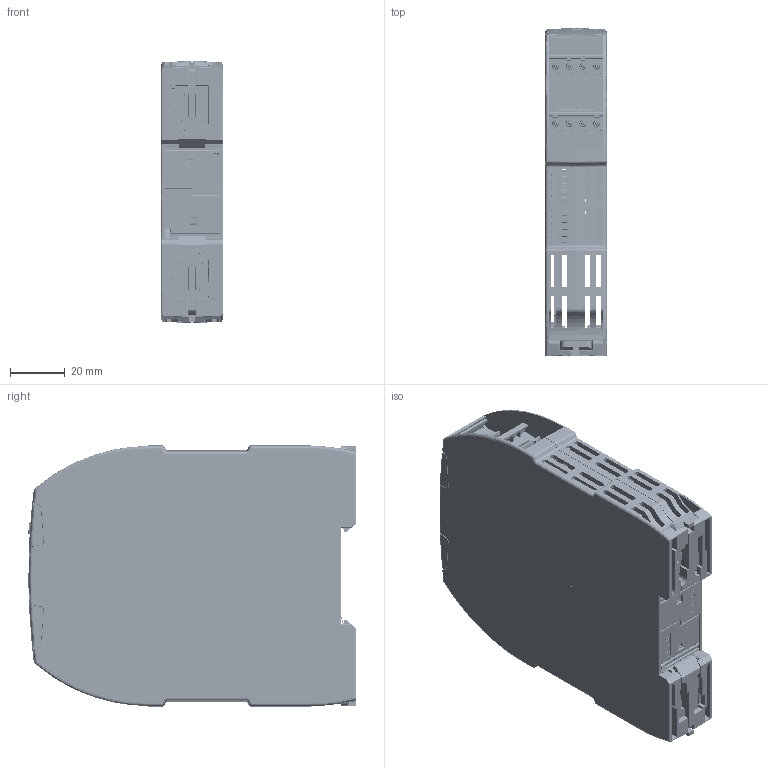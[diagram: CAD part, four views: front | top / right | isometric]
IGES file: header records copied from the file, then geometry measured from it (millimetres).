
Start section:  PTC IGES file: 2037947
Global section: file name: 2037947; native system: Creo Parametric by PTC Inc.; preprocessor: 2019292; author: s.mayer; organization: Unknown; date: 20250710.102411; units: millimetre
Bounding box: 22.5 x 120.34 x 96 mm (x, y, z)
Surface area: 103936.6 mm2 (no closed solid volume)
Topology: 0 solids, 0 shells, 13508 faces, 75386 edges, 75374 vertices
Faces by surface type: bspline 9406, revolution 3608, extrusion 494
